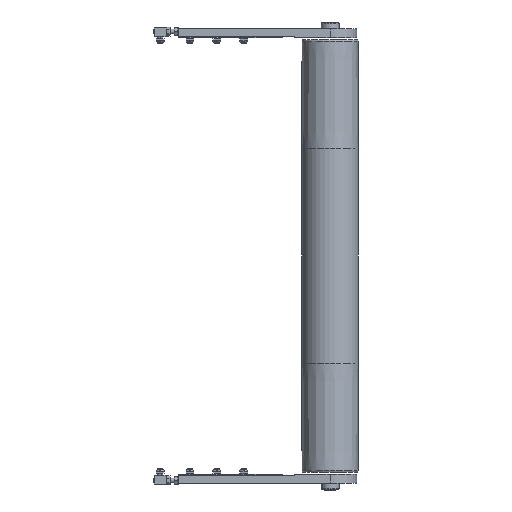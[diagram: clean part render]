
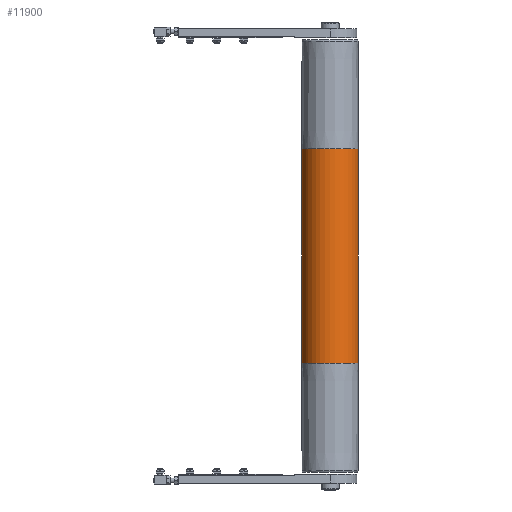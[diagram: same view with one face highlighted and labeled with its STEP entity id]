
A CAD part, front view. The second image highlights one B-rep face of the part: STEP entity #11900.
In plain terms, the highlighted cylindrical face has radius 47.5 mm (diameter 95 mm), a partial arc.
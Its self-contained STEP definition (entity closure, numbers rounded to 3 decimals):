
#1244 = CARTESIAN_POINT ( 'NONE',  ( -47.5, 0., 360. ) ) ;
#1262 = DIRECTION ( 'NONE',  ( 0., 0., -1. ) ) ;
#1281 = CARTESIAN_POINT ( 'NONE',  ( 0., 0., 180. ) ) ;
#1282 = DIRECTION ( 'NONE',  ( 0., 0., 1. ) ) ;
#1284 = DIRECTION ( 'NONE',  ( 1., 0., 0. ) ) ;
#3008 = DIRECTION ( 'NONE',  ( 0., 0., -1. ) ) ;
#3009 = CARTESIAN_POINT ( 'NONE',  ( 0., 0., -180. ) ) ;
#3010 = DIRECTION ( 'NONE',  ( 0., 0., 1. ) ) ;
#3011 = DIRECTION ( 'NONE',  ( 1., 0., 0. ) ) ;
#3012 = CARTESIAN_POINT ( 'NONE',  ( 47.5, 0., 360. ) ) ;
#3267 = CARTESIAN_POINT ( 'NONE',  ( -47.5, 0., -180. ) ) ;
#3615 = CARTESIAN_POINT ( 'NONE',  ( 47.5, 0., -180. ) ) ;
#5666 = CIRCLE ( 'NONE', #15452, 47.5 ) ;
#5670 = LINE ( 'NONE', #3012, #5673 ) ;
#5673 = VECTOR ( 'NONE', #3008, 1000. ) ;
#5823 = LINE ( 'NONE', #1244, #5830 ) ;
#5827 = CIRCLE ( 'NONE', #15493, 47.5 ) ;
#5830 = VECTOR ( 'NONE', #1262, 1000. ) ;
#6810 = ORIENTED_EDGE ( 'NONE', *, *, #9509, .T. ) ;
#8734 = ORIENTED_EDGE ( 'NONE', *, *, #9511, .F. ) ;
#8757 = ORIENTED_EDGE ( 'NONE', *, *, #9403, .T. ) ;
#8774 = ORIENTED_EDGE ( 'NONE', *, *, #9405, .F. ) ;
#9403 = EDGE_CURVE ( 'NONE', #16662, #21160, #5666, .T. ) ;
#9405 = EDGE_CURVE ( 'NONE', #16266, #21160, #5670, .T. ) ;
#9509 = EDGE_CURVE ( 'NONE', #16271, #16662, #5823, .T. ) ;
#9511 = EDGE_CURVE ( 'NONE', #16271, #16266, #5827, .T. ) ;
#11900 = ADVANCED_FACE ( 'NONE', ( #17738 ), #17746, .T. ) ;
#13225 = DIRECTION ( 'NONE',  ( -1., 0., 0. ) ) ;
#13229 = DIRECTION ( 'NONE',  ( 0., 0., -1. ) ) ;
#13230 = CARTESIAN_POINT ( 'NONE',  ( 0., 0., 360. ) ) ;
#15452 = AXIS2_PLACEMENT_3D ( 'NONE', #3009, #3010, #3011 ) ;
#15493 = AXIS2_PLACEMENT_3D ( 'NONE', #1281, #1282, #1284 ) ;
#15829 = AXIS2_PLACEMENT_3D ( 'NONE', #13230, #13229, #13225 ) ;
#16266 = VERTEX_POINT ( 'NONE', #20760 ) ;
#16271 = VERTEX_POINT ( 'NONE', #20764 ) ;
#16662 = VERTEX_POINT ( 'NONE', #3267 ) ;
#17068 = EDGE_LOOP ( 'NONE', ( #8774, #8734, #6810, #8757 ) ) ;
#17738 = FACE_OUTER_BOUND ( 'NONE', #17068, .T. ) ;
#17746 = CYLINDRICAL_SURFACE ( 'NONE', #15829, 47.5 ) ;
#20760 = CARTESIAN_POINT ( 'NONE',  ( 47.5, 0., 180. ) ) ;
#20764 = CARTESIAN_POINT ( 'NONE',  ( -47.5, 0., 180. ) ) ;
#21160 = VERTEX_POINT ( 'NONE', #3615 ) ;
